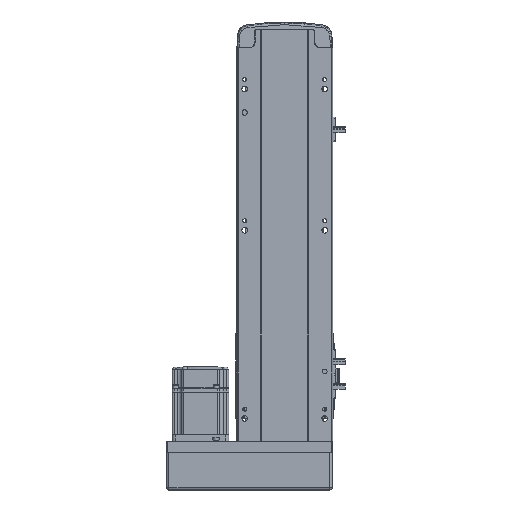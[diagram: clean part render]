
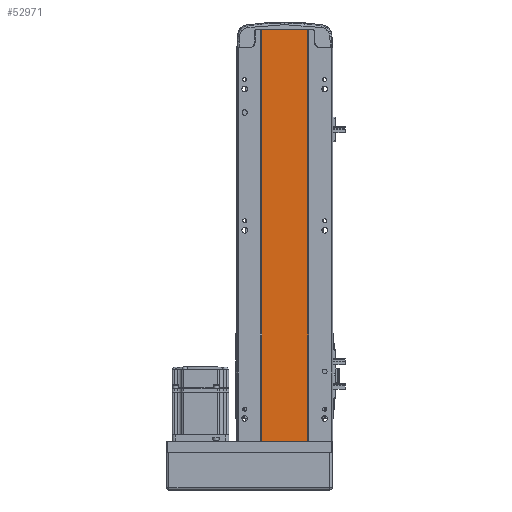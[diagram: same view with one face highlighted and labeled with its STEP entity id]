
A CAD part, front view. The second image highlights one B-rep face of the part: STEP entity #52971.
In plain terms, the highlighted planar face has unit normal (0, -1, 0).
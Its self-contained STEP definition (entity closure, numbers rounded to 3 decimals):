
#147 = VECTOR ( 'NONE', #39755, 1000. ) ;
#1001 = DIRECTION ( 'NONE',  ( 1., 0., 0. ) ) ;
#1127 = CARTESIAN_POINT ( 'NONE',  ( -24.5, 2., 437. ) ) ;
#1379 = VECTOR ( 'NONE', #8768, 1000. ) ;
#3426 = LINE ( 'NONE', #40113, #1379 ) ;
#4106 = CARTESIAN_POINT ( 'NONE',  ( 0., 2., 437. ) ) ;
#5812 = CARTESIAN_POINT ( 'NONE',  ( -24.5, 2., 0. ) ) ;
#6960 = CARTESIAN_POINT ( 'NONE',  ( 24.5, 2., 0. ) ) ;
#8599 = LINE ( 'NONE', #57614, #147 ) ;
#8768 = DIRECTION ( 'NONE',  ( 1., 0., 0. ) ) ;
#11540 = CARTESIAN_POINT ( 'NONE',  ( 24.5, 2., 437. ) ) ;
#17053 = VERTEX_POINT ( 'NONE', #6960 ) ;
#17326 = EDGE_CURVE ( 'NONE', #18922, #17053, #3426, .T. ) ;
#17883 = DIRECTION ( 'NONE',  ( 0., 1., 0. ) ) ;
#18715 = EDGE_CURVE ( 'NONE', #25271, #17053, #8599, .T. ) ;
#18809 = DIRECTION ( 'NONE',  ( 0., 0., -1. ) ) ;
#18922 = VERTEX_POINT ( 'NONE', #5812 ) ;
#19246 = ORIENTED_EDGE ( 'NONE', *, *, #37717, .F. ) ;
#22654 = ORIENTED_EDGE ( 'NONE', *, *, #17326, .T. ) ;
#25070 = ORIENTED_EDGE ( 'NONE', *, *, #38373, .T. ) ;
#25271 = VERTEX_POINT ( 'NONE', #11540 ) ;
#25488 = LINE ( 'NONE', #27956, #36106 ) ;
#27956 = CARTESIAN_POINT ( 'NONE',  ( -24.5, 2., 437. ) ) ;
#28197 = EDGE_LOOP ( 'NONE', ( #22654, #36327, #19246, #25070 ) ) ;
#35305 = VECTOR ( 'NONE', #18809, 1000. ) ;
#36047 = DIRECTION ( 'NONE',  ( 0., 0., 1. ) ) ;
#36106 = VECTOR ( 'NONE', #1001, 1000. ) ;
#36327 = ORIENTED_EDGE ( 'NONE', *, *, #18715, .F. ) ;
#37717 = EDGE_CURVE ( 'NONE', #40920, #25271, #25488, .T. ) ;
#38373 = EDGE_CURVE ( 'NONE', #40920, #18922, #40958, .T. ) ;
#39755 = DIRECTION ( 'NONE',  ( 0., 0., -1. ) ) ;
#40113 = CARTESIAN_POINT ( 'NONE',  ( 0., 2., 0. ) ) ;
#40920 = VERTEX_POINT ( 'NONE', #46674 ) ;
#40958 = LINE ( 'NONE', #1127, #35305 ) ;
#46674 = CARTESIAN_POINT ( 'NONE',  ( -24.5, 2., 437. ) ) ;
#49213 = PLANE ( 'NONE',  #49239 ) ;
#49239 = AXIS2_PLACEMENT_3D ( 'NONE', #4106, #17883, #36047 ) ;
#52971 = ADVANCED_FACE ( 'NONE', ( #54906 ), #49213, .F. ) ;
#54906 = FACE_OUTER_BOUND ( 'NONE', #28197, .T. ) ;
#57614 = CARTESIAN_POINT ( 'NONE',  ( 24.5, 2., 437. ) ) ;
